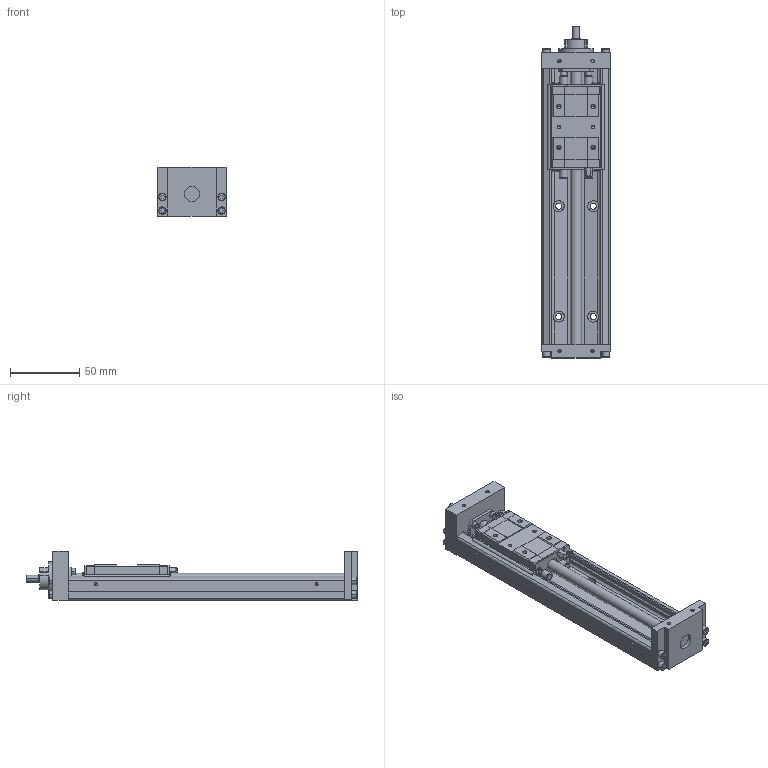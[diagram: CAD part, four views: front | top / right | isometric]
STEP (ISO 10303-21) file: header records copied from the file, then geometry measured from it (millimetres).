
FILE_DESCRIPTION(('no description'),'unknown implementation level');
FILE_NAME('KK5002P200A1H0000_FILE_12.stp',' ',('HIWIN GmbH'),('CADClick - KiM GmbH - www.kimweb.de'),'unknown preprocess','ACIS','unknown authorization');
FILE_SCHEMA(('automotive_design'));
Length unit declared in the file: millimetre
Products named in the file (2): KK50_FILE; KK5002P200A1H0000_FILE
Bounding box: 50 x 240.5 x 36 mm (x, y, z)
Volume: 179349.6 mm3; surface area: 59250.3 mm2
Topology: 2 solids, 10 shells, 632 faces, 1584 edges, 1003 vertices
Faces by surface type: plane 373, cylinder 175, cone 42, torus 42
Entity records: 37084 total; most frequent: CARTESIAN_POINT 3759, DIRECTION 3300, STYLED_ITEM 3195, PRESENTATION_STYLE_ASSIGNMENT 3195, COLOUR_RGB 3195, ORIENTED_EDGE 3116, EDGE_CURVE 1558, CURVE_STYLE 1558
